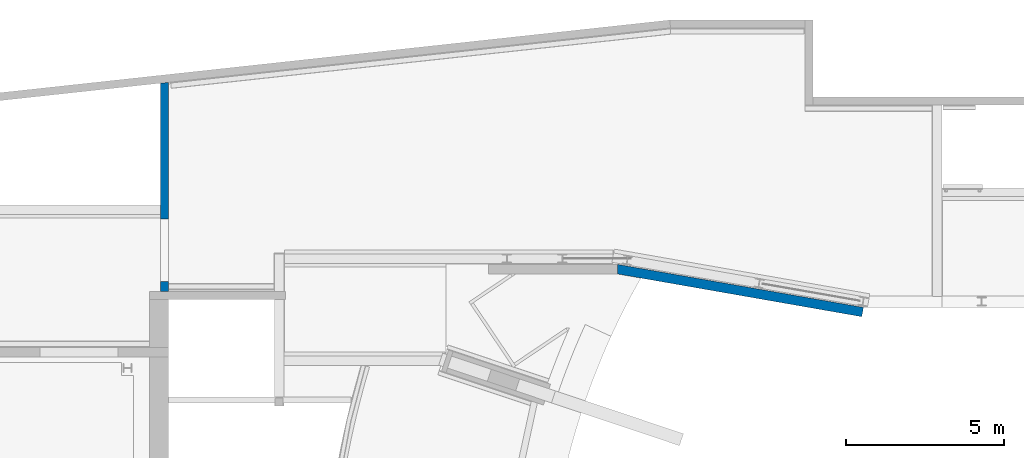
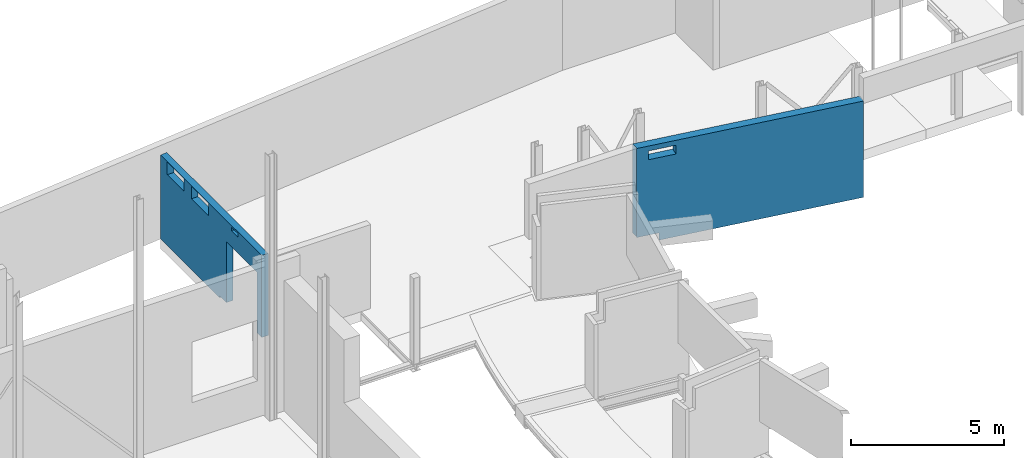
# One storey, part 37 of 37: 2 walls.
"""IFC2X3 building model written with IfcOpenShell, lengths in millimetres."""

from ifc_helpers import new_model, entity, si_unit, converted_unit, derived_unit, direction, frame, origin, place, context, subcontext, project, spatial, faceted_brep, material, layer, layer_set, type_object, element, save


model = new_model("IFC2X3")

# Units and contexts
model_context = context("Model", 3, precision=0.01, world=origin(), true_north=direction((6.12303176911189e-17, 1.0)))
body_context = subcontext(model_context, "Body", "Model", "MODEL_VIEW")
ifc_project = project(units=[si_unit("LENGTHUNIT", "METRE", prefix="MILLI"), si_unit("AREAUNIT", "SQUARE_METRE", prefix="MILLI"), si_unit("VOLUMEUNIT", "CUBIC_METRE"), converted_unit("PLANEANGLEUNIT", "DEGREE", entity("IfcRatioMeasure", 0.0174532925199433), si_unit("PLANEANGLEUNIT", "RADIAN"), dimensions=[0, 0, 0, 0, 0, 0, 0]), si_unit("MASSUNIT", "GRAM", prefix="KILO"), derived_unit("MASSDENSITYUNIT", [(si_unit("MASSUNIT", "GRAM", prefix="KILO"), 1), (si_unit("LENGTHUNIT", "METRE"), -3)]), derived_unit("MOMENTOFINERTIAUNIT", [(si_unit("LENGTHUNIT", "METRE"), 4)]), si_unit("TIMEUNIT", "SECOND"), si_unit("FREQUENCYUNIT", "HERTZ"), si_unit("THERMODYNAMICTEMPERATUREUNIT", "DEGREE_CELSIUS"), derived_unit("THERMALTRANSMITTANCEUNIT", [(si_unit("MASSUNIT", "GRAM", prefix="KILO"), 1), (si_unit("THERMODYNAMICTEMPERATUREUNIT", "KELVIN"), -1), (si_unit("TIMEUNIT", "SECOND"), -3)]), derived_unit("VOLUMETRICFLOWRATEUNIT", [(si_unit("LENGTHUNIT", "METRE"), 3), (si_unit("TIMEUNIT", "SECOND"), -1)]), si_unit("ELECTRICCURRENTUNIT", "AMPERE"), si_unit("ELECTRICVOLTAGEUNIT", "VOLT"), si_unit("POWERUNIT", "WATT"), si_unit("FORCEUNIT", "NEWTON", prefix="KILO"), si_unit("ILLUMINANCEUNIT", "LUX"), si_unit("LUMINOUSFLUXUNIT", "LUMEN"), si_unit("LUMINOUSINTENSITYUNIT", "CANDELA"), derived_unit("USERDEFINED", [(si_unit("MASSUNIT", "GRAM", prefix="KILO"), -1), (si_unit("LENGTHUNIT", "METRE"), -2), (si_unit("TIMEUNIT", "SECOND"), 3), (si_unit("LUMINOUSFLUXUNIT", "LUMEN"), 1)]), derived_unit("LINEARVELOCITYUNIT", [(si_unit("LENGTHUNIT", "METRE"), 1), (si_unit("TIMEUNIT", "SECOND"), -1)]), si_unit("PRESSUREUNIT", "PASCAL"), derived_unit("USERDEFINED", [(si_unit("LENGTHUNIT", "METRE"), -2), (si_unit("MASSUNIT", "GRAM", prefix="KILO"), 1), (si_unit("TIMEUNIT", "SECOND"), -2)]), derived_unit("LINEARFORCEUNIT", [(si_unit("MASSUNIT", "GRAM", prefix="KILO"), 1), (si_unit("LENGTHUNIT", "METRE"), 1), (si_unit("TIMEUNIT", "SECOND"), -2), (si_unit("LENGTHUNIT", "METRE"), -1)]), derived_unit("PLANARFORCEUNIT", [(si_unit("MASSUNIT", "GRAM", prefix="KILO"), 1), (si_unit("LENGTHUNIT", "METRE"), 1), (si_unit("TIMEUNIT", "SECOND"), -2), (si_unit("LENGTHUNIT", "METRE"), -2)])], contexts=[model_context])

# Site, building, storey
site_placement = place(None, origin())
site = spatial("IfcSite", under=ifc_project, at=site_placement, Name="Theater aan de Parade", CompositionType="ELEMENT")
building_placement = place(site_placement, origin())
building = spatial("IfcBuilding", under=site, at=building_placement, Name="Theater aan de Parade", CompositionType="ELEMENT")
storey_placement = place(building_placement, frame((0.0, 0.0, 5020.0)))
storey = spatial("IfcBuildingStorey", under=building, at=storey_placement, Name="01 eerste verdieping", CompositionType="ELEMENT", Elevation=5020.0)

# Walls
ifc_material_1 = material(Name="00_PBT_MAT_beton t.p.g.")
ifc_layer_1 = layer(ifc_material_1, 300.0)
ifc_layer_set_1 = layer_set([ifc_layer_1], Name="Basic Wall:28_PBT_WA_beton t.p.g._d=300_bestaand")
wall_type_1 = type_object("IfcWallType", Name="Basic Wall:28_PBT_WA_beton t.p.g._d=300_bestaand", PredefinedType="STANDARD", material=ifc_layer_set_1)
wall_1_placement = place(storey_placement, frame((51670.194993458, 44062.2454299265, -1710.0), z_axis=(0.0, 0.0, 1.0), x_axis=(0.985030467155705, -0.172380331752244, 0.0)))
element("IfcWall", 1, at=wall_1_placement, inside=storey, type_object=wall_type_1, Name="Basic Wall:28_PBT_WA_beton t.p.g._d=300_bestaand", ObjectType="Basic Wall:28_PBT_WA_beton t.p.g._d=300_bestaand", context=body_context, shape_type="Brep", body=[
    faceted_brep([(445.497514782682, -150.0, 3295.0), (26.0520432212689, -150.0, 290.0), (805.071511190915, -150.0, 290.0), (26.0520432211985, -150.0, 3690.0), (445.497514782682, -150.0, 3645.0), (1395.49751478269, -150.0, 3295.0), (26.0520432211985, -150.0, 3840.0), (1764.2767704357, -150.0, 3840.0), (1395.49751478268, -150.0, 3645.0), (7915.58321058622, -150.0, 0.0), (7915.58321058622, -150.0, 3840.0), (805.071511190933, -150.0, 0.0), (1740.33775750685, 150.0, 3840.0), (7915.58321058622, 150.0, 0.0), (1395.49751478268, 150.0, 3295.0), (1395.49751478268, 150.0, 3645.0), (7915.58321058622, 150.0, 3840.0), (1423.11416506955, 150.0, 3840.0), (915.548178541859, 150.0, 290.0), (915.548178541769, 150.0, 0.0), (445.49751478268, 150.0, 3295.0), (0.0, 150.0, 290.0), (0.0, 150.0, 3840.0), (445.49751478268, 150.0, 3645.0), (1189.66963272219, 150.0, 3840.0), (1201.58582770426, 150.0, 3840.0), (859.783362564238, 0.189710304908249, 290.0), (51.7140995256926, -145.509140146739, 290.0), (859.784714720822, 0.193382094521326, 0.0), (51.7140995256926, -145.509140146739, 3840.0)], [[[0, 1, 2]], [[1, 0, 3]], [[4, 3, 0]], [[5, 0, 2]], [[6, 3, 4]], [[6, 4, 7]], [[8, 7, 4]], [[5, 7, 8]], [[5, 9, 7]], [[7, 9, 10]], [[2, 9, 5]], [[9, 2, 11]], [[12, 13, 14]], [[12, 14, 15]], [[12, 16, 13]], [[17, 12, 15]], [[14, 13, 18]], [[18, 13, 19]], [[20, 14, 18]], [[18, 21, 20]], [[20, 21, 22]], [[22, 23, 20]], [[23, 22, 24]], [[25, 15, 24]], [[15, 23, 24]], [[15, 25, 17]], [[18, 26, 2, 1, 27, 21]], [[19, 28, 18]], [[18, 28, 26]], [[26, 11, 2]], [[11, 26, 28]], [[29, 27, 1, 3, 6]], [[21, 27, 29, 22]], [[9, 11, 28, 19, 13]], [[10, 9, 13, 16]], [[12, 17, 25, 24, 22, 29, 6, 7, 10, 16]], [[4, 0, 20, 23]], [[8, 4, 23, 15]], [[5, 8, 15, 14]], [[0, 5, 14, 20]]]),
])
ifc_material_2 = material(Name="00_PBT_MAT_beton t.p.g._C30/37")
ifc_layer_2 = layer(ifc_material_2, 250.0)
ifc_layer_set_2 = layer_set([ifc_layer_2], Name="Basic Wall:28_PBT_WA_beton t.p.g._d=250_C30/37")
wall_type_2 = type_object("IfcWallType", Name="Basic Wall:28_PBT_WA_beton t.p.g._d=250_C30/37", PredefinedType="STANDARD", material=ifc_layer_set_2)
wall_2_placement = place(storey_placement, frame((37328.8581300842, 49983.3096390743, -80.0), z_axis=(0.0, 0.0, 1.0), x_axis=(0.0, -1.0, 0.0)))
element("IfcWall", 2, at=wall_2_placement, inside=storey, type_object=wall_type_2, Name="Basic Wall:28_PBT_WA_beton t.p.g._d=250_C30/37", ObjectType="Basic Wall:28_PBT_WA_beton t.p.g._d=250_C30/37", context=body_context, shape_type="Brep", body=[
    faceted_brep([(6311.41511417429, -125.0, 2500.0), (6311.41511417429, -125.0, 80.0), (6633.30963907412, -125.0, 80.0), (6633.30963907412, -125.0, 3350.0), (27.1269532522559, -125.0, 3350.0), (27.1269532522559, -125.0, 0.0), (3883.30963907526, -125.0, 0.0), (3883.30963907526, -125.0, 80.0), (4336.41511417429, -125.0, 80.0), (4336.41511417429, -125.0, 2500.0), (3146.44652187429, -125.0, 3330.0), (3146.44652187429, -125.0, 2830.0), (2046.44652187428, -125.0, 2830.0), (2046.44652187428, -125.0, 3330.0), (1561.72254543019, -125.0, 3330.0), (1561.72254543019, -125.0, 2830.0), (461.722545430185, -125.0, 2830.0), (461.722545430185, -125.0, 3330.0), (5098.30963907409, -125.0, 3290.0), (5098.30963907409, -125.0, 3140.0), (4648.30963907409, -125.0, 3140.0), (4648.30963907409, -125.0, 3290.0), (6311.41511417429, 125.0, 80.0), (6311.41511417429, 125.0, 2500.0), (4336.41511417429, 125.0, 2500.0), (4336.41511417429, 125.0, 80.0), (3883.30963907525, 125.0, 80.0), (3883.30963907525, 125.0, 0.0), (0.0, 125.0, 0.0), (0.0, 125.0, 3350.0), (50.2934872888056, 125.0, 3350.0), (6583.30963907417, 125.0, 3350.0), (6607.75953867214, 125.0, 3350.0), (6633.30963907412, 125.0, 3350.0), (6633.30963907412, 125.0, 80.0), (3146.44652187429, 125.0, 2830.0), (3146.44652187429, 125.0, 3330.0), (2046.44652187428, 125.0, 3330.0), (2046.44652187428, 125.0, 2830.0), (1561.72254543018, 125.0, 2830.0), (1561.72254543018, 125.0, 3330.0), (461.722545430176, 125.0, 3330.0), (461.722545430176, 125.0, 2830.0), (5098.30963907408, 125.0, 3140.0), (5098.30963907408, 125.0, 3290.0), (4648.30963907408, 125.0, 3290.0), (4648.30963907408, 125.0, 3140.0)], [[[0, 1, 2, 3, 4, 5, 6, 7, 8, 9], [10, 11, 12, 13], [14, 15, 16, 17], [18, 19, 20, 21]], [[22, 23, 24, 25, 26, 27, 28, 29, 30, 31, 32, 33, 34], [35, 36, 37, 38], [39, 40, 41, 42], [43, 44, 45, 46]], [[5, 28, 27, 6]], [[33, 3, 2, 34]], [[28, 5, 4, 29]], [[0, 23, 22, 1]], [[24, 9, 8, 25]], [[23, 0, 9, 24]], [[35, 11, 10, 36]], [[11, 35, 38, 12]], [[12, 38, 37, 13]], [[36, 10, 13, 37]], [[39, 15, 14, 40]], [[15, 39, 42, 16]], [[16, 42, 41, 17]], [[40, 14, 17, 41]], [[4, 3, 33, 32, 31, 30, 29]], [[2, 1, 22, 34]], [[26, 7, 6, 27]], [[43, 19, 18, 44]], [[19, 43, 46, 20]], [[20, 46, 45, 21]], [[44, 18, 21, 45]], [[7, 26, 25, 8]]]),
])

save(model, "model.ifc")
